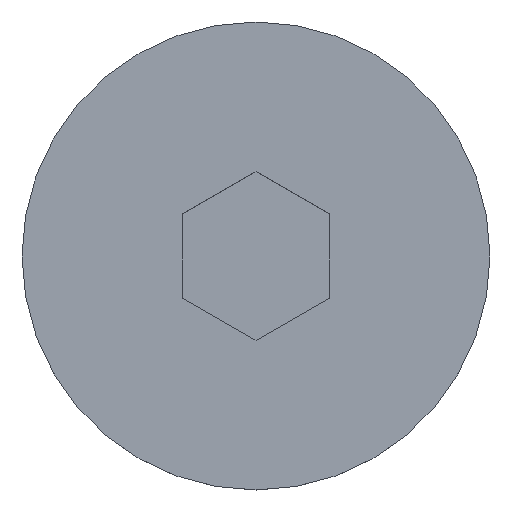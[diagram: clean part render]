
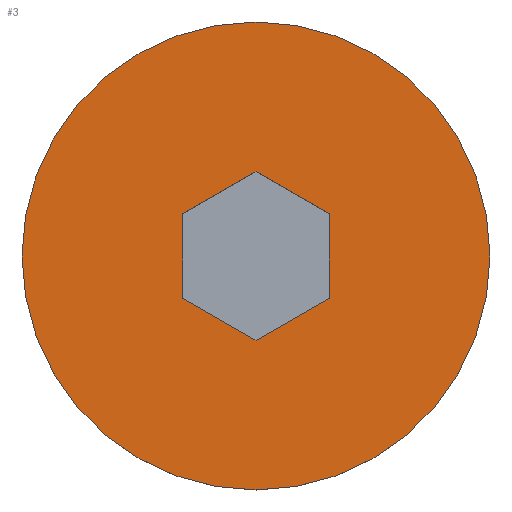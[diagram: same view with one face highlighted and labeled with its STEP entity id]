
A CAD part, top view. The second image highlights one B-rep face of the part: STEP entity #3.
In plain terms, the highlighted planar face has unit normal (0, 0, 1).
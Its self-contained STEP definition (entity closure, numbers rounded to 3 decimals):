
#3 = ADVANCED_FACE ( 'NONE', ( #156, #237 ), #443, .T. ) ;
#4 = DIRECTION ( 'NONE',  ( 0., 1., 0. ) ) ;
#6 = LINE ( 'NONE', #345, #363 ) ;
#7 = CARTESIAN_POINT ( 'NONE',  ( 3., 1.732, 5.22 ) ) ;
#14 = DIRECTION ( 'NONE',  ( 0., 0., -1. ) ) ;
#21 = DIRECTION ( 'NONE',  ( -1., 0., 0. ) ) ;
#42 = ORIENTED_EDGE ( 'NONE', *, *, #193, .F. ) ;
#43 = EDGE_CURVE ( 'NONE', #264, #207, #260, .T. ) ;
#54 = AXIS2_PLACEMENT_3D ( 'NONE', #57, #300, #131 ) ;
#57 = CARTESIAN_POINT ( 'NONE',  ( -9.61, 0., 5.22 ) ) ;
#63 = CARTESIAN_POINT ( 'NONE',  ( 3., 1.732, 5.22 ) ) ;
#70 = VECTOR ( 'NONE', #88, 1000. ) ;
#76 = CARTESIAN_POINT ( 'NONE',  ( 3., -1.732, 5.22 ) ) ;
#83 = DIRECTION ( 'NONE',  ( 0., -1., 0. ) ) ;
#88 = DIRECTION ( 'NONE',  ( 0.866, 0.5, 0. ) ) ;
#93 = EDGE_CURVE ( 'NONE', #422, #102, #408, .T. ) ;
#100 = ORIENTED_EDGE ( 'NONE', *, *, #43, .F. ) ;
#102 = VERTEX_POINT ( 'NONE', #7 ) ;
#121 = CARTESIAN_POINT ( 'NONE',  ( -3., -1.732, 5.22 ) ) ;
#122 = VERTEX_POINT ( 'NONE', #148 ) ;
#131 = DIRECTION ( 'NONE',  ( 1., 0., 0. ) ) ;
#134 = LINE ( 'NONE', #359, #292 ) ;
#148 = CARTESIAN_POINT ( 'NONE',  ( 0., -3.464, 5.22 ) ) ;
#156 = FACE_BOUND ( 'NONE', #187, .T. ) ;
#168 = DIRECTION ( 'NONE',  ( -0.866, 0.5, 0. ) ) ;
#171 = CARTESIAN_POINT ( 'NONE',  ( 9.61, 0., 5.22 ) ) ;
#175 = ORIENTED_EDGE ( 'NONE', *, *, #293, .F. ) ;
#177 = VERTEX_POINT ( 'NONE', #418 ) ;
#187 = EDGE_LOOP ( 'NONE', ( #258, #242, #175, #318, #206, #42 ) ) ;
#188 = DIRECTION ( 'NONE',  ( -1., 0., 0. ) ) ;
#193 = EDGE_CURVE ( 'NONE', #196, #230, #6, .T. ) ;
#196 = VERTEX_POINT ( 'NONE', #248 ) ;
#206 = ORIENTED_EDGE ( 'NONE', *, *, #382, .F. ) ;
#207 = VERTEX_POINT ( 'NONE', #349 ) ;
#213 = EDGE_CURVE ( 'NONE', #102, #196, #394, .T. ) ;
#217 = AXIS2_PLACEMENT_3D ( 'NONE', #430, #14, #188 ) ;
#222 = LINE ( 'NONE', #437, #70 ) ;
#230 = VERTEX_POINT ( 'NONE', #444 ) ;
#232 = DIRECTION ( 'NONE',  ( 0., 0., -1. ) ) ;
#237 = FACE_OUTER_BOUND ( 'NONE', #426, .T. ) ;
#242 = ORIENTED_EDGE ( 'NONE', *, *, #93, .F. ) ;
#243 = CIRCLE ( 'NONE', #217, 9.61 ) ;
#248 = CARTESIAN_POINT ( 'NONE',  ( 0., 3.464, 5.22 ) ) ;
#258 = ORIENTED_EDGE ( 'NONE', *, *, #213, .F. ) ;
#260 = CIRCLE ( 'NONE', #306, 9.61 ) ;
#264 = VERTEX_POINT ( 'NONE', #171 ) ;
#265 = VECTOR ( 'NONE', #297, 1000. ) ;
#266 = ORIENTED_EDGE ( 'NONE', *, *, #398, .F. ) ;
#274 = DIRECTION ( 'NONE',  ( -0.866, -0.5, 0. ) ) ;
#285 = EDGE_CURVE ( 'NONE', #177, #122, #393, .T. ) ;
#292 = VECTOR ( 'NONE', #83, 1000. ) ;
#293 = EDGE_CURVE ( 'NONE', #122, #422, #222, .T. ) ;
#297 = DIRECTION ( 'NONE',  ( 0.866, -0.5, 0. ) ) ;
#300 = DIRECTION ( 'NONE',  ( 0., 0., 1. ) ) ;
#306 = AXIS2_PLACEMENT_3D ( 'NONE', #400, #232, #21 ) ;
#318 = ORIENTED_EDGE ( 'NONE', *, *, #285, .F. ) ;
#321 = CARTESIAN_POINT ( 'NONE',  ( 3., -1.732, 5.22 ) ) ;
#345 = CARTESIAN_POINT ( 'NONE',  ( 0., 3.464, 5.22 ) ) ;
#349 = CARTESIAN_POINT ( 'NONE',  ( -9.61, 0., 5.22 ) ) ;
#359 = CARTESIAN_POINT ( 'NONE',  ( -3., 1.732, 5.22 ) ) ;
#363 = VECTOR ( 'NONE', #274, 1000. ) ;
#382 = EDGE_CURVE ( 'NONE', #230, #177, #134, .T. ) ;
#393 = LINE ( 'NONE', #121, #265 ) ;
#394 = LINE ( 'NONE', #63, #415 ) ;
#398 = EDGE_CURVE ( 'NONE', #207, #264, #243, .T. ) ;
#400 = CARTESIAN_POINT ( 'NONE',  ( 0., 0., 5.22 ) ) ;
#408 = LINE ( 'NONE', #76, #416 ) ;
#415 = VECTOR ( 'NONE', #168, 1000. ) ;
#416 = VECTOR ( 'NONE', #4, 1000. ) ;
#418 = CARTESIAN_POINT ( 'NONE',  ( -3., -1.732, 5.22 ) ) ;
#422 = VERTEX_POINT ( 'NONE', #321 ) ;
#426 = EDGE_LOOP ( 'NONE', ( #266, #100 ) ) ;
#430 = CARTESIAN_POINT ( 'NONE',  ( 0., 0., 5.22 ) ) ;
#437 = CARTESIAN_POINT ( 'NONE',  ( 0., -3.464, 5.22 ) ) ;
#443 = PLANE ( 'NONE',  #54 ) ;
#444 = CARTESIAN_POINT ( 'NONE',  ( -3., 1.732, 5.22 ) ) ;
